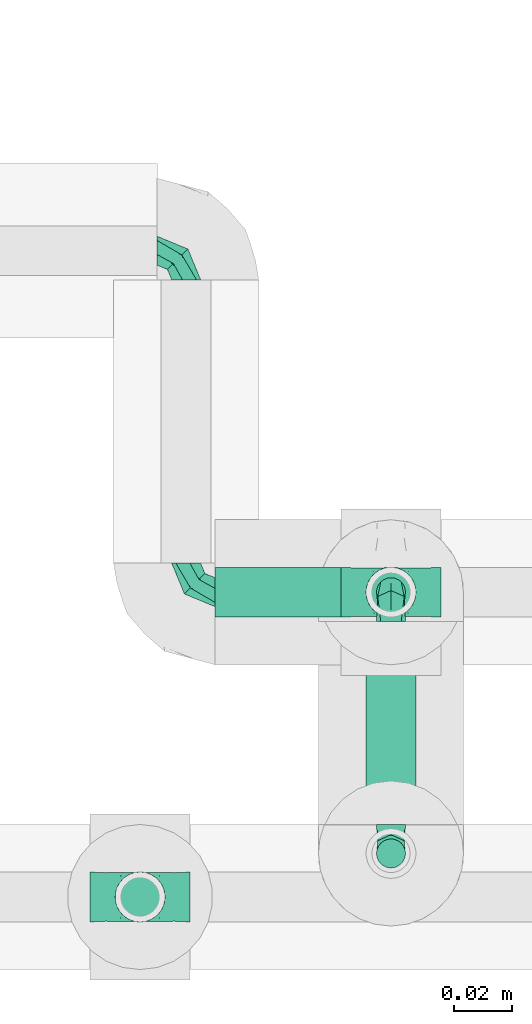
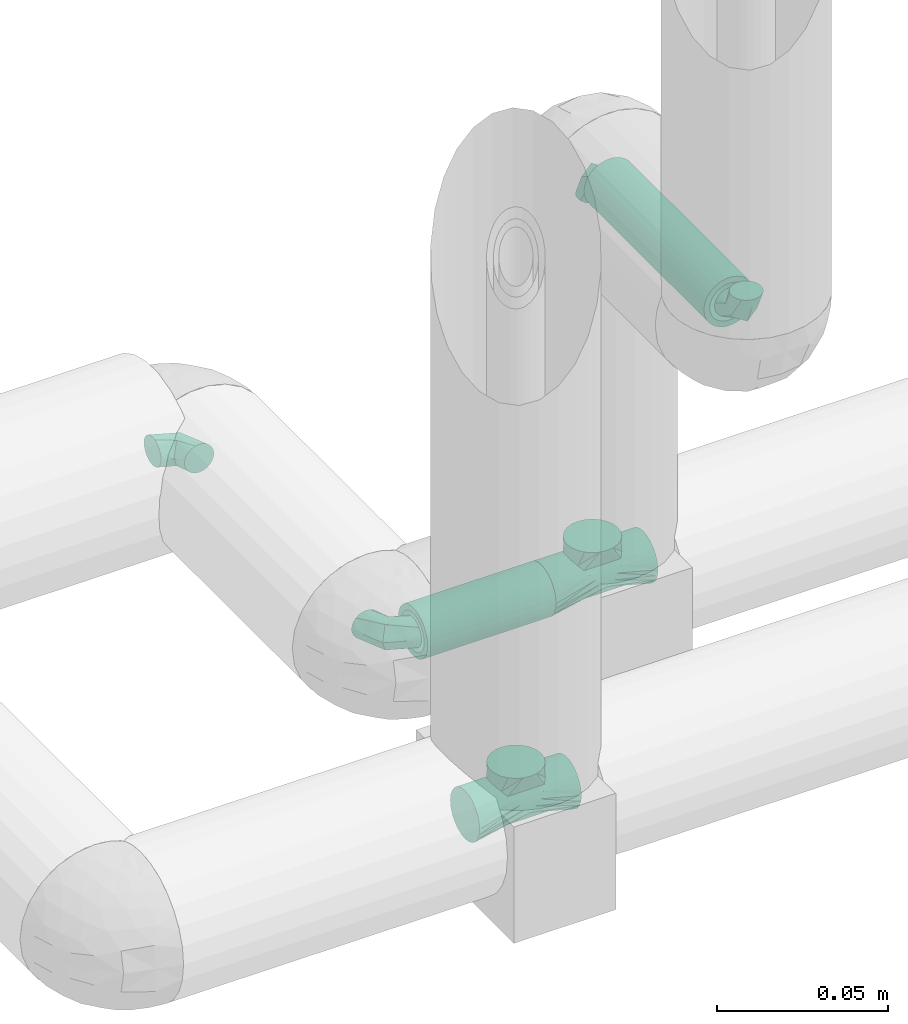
# One storey, part 106 of 156: 6 flow fittings, 2 flow segments.
"""IFC2X3 building model written with IfcOpenShell, lengths in millimetres."""

import ifcopenshell
import ifcopenshell.guid

model = None  # the IFC model being written
_history = None  # IfcOwnerHistory: only IFC2X3 demands one
_inside = {}  # id of a spatial element -> (the spatial element, [elements in it])
_under = {}  # id of a project, library or spatial element -> (it, [spatial elements below it])
_declared = {}  # id of a project -> (the project, [libraries it declares])
_typed = {}  # id of a type object -> (the type object, [elements of that type])
_made_of = {}  # id of a material, layer set ... -> (it, [elements and type objects made of it])


def new_model(schema):
    """Start an empty IFC model of exactly this schema.

    Asked for "IFC4X3", IfcOpenShell would pick the latest addendum, in which some entities
    have other attributes; the version numbers below select the first issue.
    IFC2X3 requires an IfcOwnerHistory on every rooted entity: one is made here for all.
    """
    global model, _history
    if schema == "IFC4X3":
        model = ifcopenshell.file(schema_version=(4, 3, 0, 0))
    else:
        model = ifcopenshell.file(schema=schema)
    _inside.clear()
    _under.clear()
    _declared.clear()
    _typed.clear()
    _made_of.clear()
    _history = None
    if model.schema == "IFC2X3":
        org = make("IfcOrganization", Name="unknown")
        user = make(
            "IfcPersonAndOrganization",
            ThePerson=make("IfcPerson", FamilyName="unknown"),
            TheOrganization=org,
        )
        app = make(
            "IfcApplication",
            ApplicationDeveloper=org,
            Version="unknown",
            ApplicationFullName="unknown",
            ApplicationIdentifier="unknown",
        )
        _history = make(
            "IfcOwnerHistory",
            OwningUser=user,
            OwningApplication=app,
            ChangeAction="ADDED",
            CreationDate=0,
        )
    return model


def make(cls, **values):
    """One entity of the class cls with the attributes given. An attribute that is None is left unset."""
    return model.create_entity(
        cls, **{name: value for name, value in values.items() if value is not None}
    )


def entity(cls, *values):
    """Any entity or typed value of the class cls, its attributes in the order of the schema. None: left unset."""
    e = model.create_entity(cls)
    for i, value in enumerate(values):
        if value is not None:
            e[i] = value
    return e


def rooted(cls, **values):
    """An entity with a GlobalId (a new one), such as an element, a storey or a relation."""
    return make(cls, GlobalId=ifcopenshell.guid.new(), OwnerHistory=_history, **values)


def si_unit(unit_type, name, prefix=None):
    """IfcSIUnit, for example si_unit("LENGTHUNIT", "METRE", prefix="MILLI")."""
    return make("IfcSIUnit", UnitType=unit_type, Prefix=prefix, Name=name)


def converted_unit(unit_type, name, factor, base, dimensions=None, offset=None):
    """IfcConversionBasedUnit, such as the inch: factor (a typed value) times the base unit."""
    return make(
        "IfcConversionBasedUnit"
        if offset is None
        else "IfcConversionBasedUnitWithOffset",
        ConversionOffset=offset,
        Dimensions=None
        if dimensions is None
        else entity("IfcDimensionalExponents", *dimensions),
        UnitType=unit_type,
        Name=name,
        ConversionFactor=make(
            "IfcMeasureWithUnit", ValueComponent=factor, UnitComponent=base
        ),
    )


def derived_unit(unit_type, elements):
    """IfcDerivedUnit: a product of units, each with its exponent."""
    return make(
        "IfcDerivedUnit",
        Elements=[
            make("IfcDerivedUnitElement", Unit=unit, Exponent=power)
            for unit, power in elements
        ],
        UnitType=unit_type,
    )


def assignment(units):
    """IfcUnitAssignment: the units of a project."""
    return None if units is None else make("IfcUnitAssignment", Units=units)


def point(xyz):
    """IfcCartesianPoint."""
    return None if xyz is None else make("IfcCartesianPoint", Coordinates=xyz)


def direction(xyz):
    """IfcDirection."""
    return None if xyz is None else make("IfcDirection", DirectionRatios=xyz)


def frame(location, z_axis=None, x_axis=None):
    """IfcAxis2Placement3D, a coordinate frame: its origin and axes. An axis left out is left unset."""
    return make(
        "IfcAxis2Placement3D",
        Location=point(location),
        Axis=direction(z_axis),
        RefDirection=direction(x_axis),
    )


def frame_2d(location, x_axis=None):
    """IfcAxis2Placement2D, a coordinate frame in the plane: its origin and x axis."""
    return make(
        "IfcAxis2Placement2D", Location=point(location), RefDirection=direction(x_axis)
    )


def origin_with_axes():
    """The frame at (0, 0, 0) with the z axis (0, 0, 1) and the x axis (1, 0, 0) written out."""
    return frame((0.0, 0.0, 0.0), z_axis=(0.0, 0.0, 1.0), x_axis=(1.0, 0.0, 0.0))


def origin_2d_with_axis():
    """The frame at (0, 0) in the plane with the x axis (1, 0) written out."""
    return frame_2d((0.0, 0.0), x_axis=(1.0, 0.0))


def place(relative_to, where):
    """IfcLocalPlacement: puts the frame where relative to a parent placement (None: the world)."""
    return make(
        "IfcLocalPlacement", PlacementRelTo=relative_to, RelativePlacement=where
    )


def context(
    kind, dimensions, precision=None, world=None, true_north=None, identifier=None
):
    """IfcGeometricRepresentationContext, for example the 3D "Model" context."""
    return make(
        "IfcGeometricRepresentationContext",
        ContextIdentifier=identifier,
        ContextType=kind,
        CoordinateSpaceDimension=dimensions,
        Precision=precision,
        WorldCoordinateSystem=world,
        TrueNorth=true_north,
    )


def subcontext(parent, identifier, kind, view, scale=None):
    """IfcGeometricRepresentationSubContext, for example "Body" below "Model"."""
    return make(
        "IfcGeometricRepresentationSubContext",
        ContextIdentifier=identifier,
        ContextType=kind,
        ParentContext=parent,
        TargetScale=scale,
        TargetView=view,
    )


def project(units=None, contexts=None):
    """IfcProject with its units and contexts."""
    return rooted(
        "IfcProject",
        Name="project",
        RepresentationContexts=contexts,
        UnitsInContext=assignment(units),
    )


def spatial(cls, under=None, at=None, **own):
    """A site, building, storey or space (cls), placed at a placement, below another one or the project."""
    s = rooted(cls, ObjectPlacement=at, **own)
    if under is not None:
        _under.setdefault(under.id(), (under, []))[1].append(s)
    return s


def profile(cls, at=None, kind="AREA", **sizes):
    """A parametric profile (cls). Its sizes go by their IFC names, for example OverallWidth=200.0."""
    return make(cls, ProfileType=kind, Position=at, **sizes)


def hollow_circle(**sizes):
    """IfcCircleHollowProfileDef."""
    return profile("IfcCircleHollowProfileDef", **sizes)


def extrude(swept, where, along, depth):
    """IfcExtrudedAreaSolid: the profile swept, set in the frame where, extruded along a direction by depth."""
    return make(
        "IfcExtrudedAreaSolid",
        SweptArea=swept,
        Position=where,
        ExtrudedDirection=direction(along),
        Depth=depth,
    )


def faces_of(points, faces, orient=None, outer=None):
    """IfcFace entities. A face is a list of loops; a loop is a list of indices into points, from 0.

    orient and outer hold one flag for each loop. By default every Orientation is true, the
    first loop of a face is its IfcFaceOuterBound and the others are IfcFaceBound.
    """
    made = []
    for i, loops in enumerate(faces):
        bounds = []
        for j, loop in enumerate(loops):
            is_outer = j == 0 if outer is None else outer[i][j]
            bounds.append(
                make(
                    "IfcFaceOuterBound" if is_outer else "IfcFaceBound",
                    Bound=make("IfcPolyLoop", Polygon=[points[k] for k in loop]),
                    Orientation=True if orient is None else orient[i][j],
                )
            )
        made.append(make("IfcFace", Bounds=bounds))
    return made


def open_shell(faces, orient=None, outer=None):
    """The faces of one IfcOpenShell. surface_model builds it on its shared points."""
    return ("IfcOpenShell", faces, orient, outer)


def surface_model(cls, points, shells):
    """IfcFaceBasedSurfaceModel or IfcShellBasedSurfaceModel (cls): surfaces that need not close."""
    shared = [point(p) for p in points]
    made = [make(c, CfsFaces=faces_of(shared, fs, o, b)) for c, fs, o, b in shells]
    if cls == "IfcFaceBasedSurfaceModel":
        return make(cls, FbsmFaces=made)
    return make(cls, SbsmBoundary=made)


def shape(context_of_items, identifier, shape_type, items):
    """IfcShapeRepresentation: the items that make up one representation, for example the "Body"."""
    return make(
        "IfcShapeRepresentation",
        ContextOfItems=context_of_items,
        RepresentationIdentifier=identifier,
        RepresentationType=shape_type,
        Items=items,
    )


def source(mapping_origin, context_of_items, identifier, shape_type, items):
    """IfcRepresentationMap: a shape defined once, which mapped items show again and again."""
    return make(
        "IfcRepresentationMap",
        MappingOrigin=mapping_origin,
        MappedRepresentation=shape(context_of_items, identifier, shape_type, items),
    )


def transform(
    local_origin,
    x_axis=None,
    y_axis=None,
    z_axis=None,
    scale=None,
    scale2=None,
    scale3=None,
    uniform=True,
):
    """IfcCartesianTransformationOperator3D, or its non-uniform kind. x_axis, y_axis, z_axis: its Axis1, 2, 3."""
    if uniform:
        return make(
            "IfcCartesianTransformationOperator3D",
            Axis1=direction(x_axis),
            Axis2=direction(y_axis),
            LocalOrigin=point(local_origin),
            Scale=scale,
            Axis3=direction(z_axis),
        )
    return make(
        "IfcCartesianTransformationOperator3DnonUniform",
        Axis1=direction(x_axis),
        Axis2=direction(y_axis),
        LocalOrigin=point(local_origin),
        Scale=scale,
        Axis3=direction(z_axis),
        Scale2=scale2,
        Scale3=scale3,
    )


def mapped(mapping_source, mapping_target):
    """IfcMappedItem: shows the shape of a source again, moved by a transform."""
    return make(
        "IfcMappedItem", MappingSource=mapping_source, MappingTarget=mapping_target
    )


def made_of(thing, what):
    """Note that an element or type object is made of a material, layer set ...; save() writes the relation."""
    if what is not None:
        _made_of.setdefault(what.id(), (what, []))[1].append(thing)
    return thing


def type_object(cls, material=None, **own):
    """A type object (cls), such as IfcWallType, which elements share."""
    return made_of(rooted(cls, **own), material)


def element(
    cls,
    number,
    at=None,
    inside=None,
    cuts=None,
    type_object=None,
    material=None,
    context=None,
    identifier="Body",
    shape_type=None,
    held_by="IfcProductDefinitionShape",
    body=None,
    shapes=None,
    **own,
):
    """One element of the class cls, such as IfcWall. Its Tag is "e" and its number.

    at: its placement. inside: the storey or other place that contains it. cuts: it is an
    opening in that element (IfcRelVoidsElement). A single representation is given by context,
    identifier, shape_type and body (its items); several are given by shapes. held_by: the class
    of the entity that holds the representations. save() writes the other relations.
    """
    e = rooted(cls, Tag="e%d" % number, ObjectPlacement=at, **own)
    if body is not None:
        shapes = [shape(context, identifier, shape_type, body)]
    if shapes is not None:
        e.Representation = make(held_by, Representations=shapes)
    if inside is not None:
        _inside.setdefault(inside.id(), (inside, []))[1].append(e)
    if cuts is not None:
        rooted(
            "IfcRelVoidsElement", RelatingBuildingElement=cuts, RelatedOpeningElement=e
        )
    if type_object is not None:
        _typed.setdefault(type_object.id(), (type_object, []))[1].append(e)
    return made_of(e, material)


def aggregate(whole, parts):
    """IfcRelAggregates: a whole, such as a stair, and the parts it consists of."""
    return rooted("IfcRelAggregates", RelatingObject=whole, RelatedObjects=parts)


def save(model, path):
    """Write the relations noted so far, then the file.

    IfcRelAggregates (storeys below a building ...), IfcRelContainedInSpatialStructure (elements
    in a storey), IfcRelDefinesByType, IfcRelAssociatesMaterial and IfcRelDeclares: one each for
    every whole, place, type object, material and project.
    """
    for whole, parts in _under.values():
        aggregate(whole, parts)
    for where, things in _inside.values():
        rooted(
            "IfcRelContainedInSpatialStructure",
            RelatedElements=things,
            RelatingStructure=where,
        )
    for kind, things in _typed.values():
        rooted("IfcRelDefinesByType", RelatedObjects=things, RelatingType=kind)
    for what, things in _made_of.values():
        rooted("IfcRelAssociatesMaterial", RelatedObjects=things, RelatingMaterial=what)
    for by, libraries in _declared.values():
        rooted("IfcRelDeclares", RelatingContext=by, RelatedDefinitions=libraries)
    model.write(path)


model = new_model("IFC2X3")

# Units and contexts
model_context = context("Model", 3, precision=0.01, world=frame((0.0, 4.29681676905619e-09, 0.0)), true_north=direction((4.01073788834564e-13, 1.0)))
plan_context = context("Plan", 3, precision=0.01, world=frame((0.0, 4.29681676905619e-09, 0.0)), true_north=direction((4.01073788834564e-13, 1.0)))
body_context = subcontext(model_context, "Body", "Model", "MODEL_VIEW")
ifc_project = project(units=[converted_unit("PLANEANGLEUNIT", "DEGREE", entity("IfcPositiveLengthMeasure", 0.0174532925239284), si_unit("PLANEANGLEUNIT", "RADIAN"), dimensions=[0, 0, 0, 0, 0, 0, 0]), si_unit("AREAUNIT", "SQUARE_METRE"), si_unit("LENGTHUNIT", "METRE", prefix="MILLI"), si_unit("MASSUNIT", "GRAM", prefix="KILO"), si_unit("POWERUNIT", "WATT"), si_unit("PRESSUREUNIT", "PASCAL", prefix="KILO"), si_unit("FORCEUNIT", "NEWTON", prefix="KILO"), si_unit("ELECTRICVOLTAGEUNIT", "VOLT"), si_unit("ELECTRICCURRENTUNIT", "AMPERE"), si_unit("THERMODYNAMICTEMPERATUREUNIT", "DEGREE_CELSIUS"), si_unit("TIMEUNIT", "SECOND"), si_unit("VOLUMEUNIT", "CUBIC_METRE"), derived_unit("LINEARVELOCITYUNIT", [(si_unit("LENGTHUNIT", "METRE"), 1), (si_unit("TIMEUNIT", "SECOND"), -1)]), derived_unit("VOLUMETRICFLOWRATEUNIT", [(si_unit("VOLUMEUNIT", "CUBIC_METRE"), 1), (si_unit("TIMEUNIT", "SECOND"), -1)]), derived_unit("THERMALTRANSMITTANCEUNIT", [(si_unit("POWERUNIT", "WATT"), 1), (si_unit("THERMODYNAMICTEMPERATUREUNIT", "KELVIN"), -1), (si_unit("AREAUNIT", "SQUARE_METRE"), -1)]), derived_unit("SOUNDPRESSUREUNIT", [(si_unit("PRESSUREUNIT", "PASCAL"), 1)])], contexts=[model_context, plan_context])

# Site, building, storey
site_placement = place(None, frame((0.0, -4.29681676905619e-09, 0.0), z_axis=(0.0, 0.0, 1.0), x_axis=(1.0, 0.0, 0.0)))
site = spatial("IfcSite", under=ifc_project, at=site_placement, CompositionType="ELEMENT")
building_placement = place(site_placement, frame((0.0, 4.29681676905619e-09, 0.0), z_axis=(0.0, 0.0, 1.0), x_axis=(1.0, 0.0, 0.0)))
building = spatial("IfcBuilding", under=site, at=building_placement, Name="mc-building", CompositionType="ELEMENT")
storey_placement = place(building_placement, frame((0.0, 0.0, 205200.0), z_axis=(0.0, 0.0, 1.0), x_axis=(1.0, 0.0, 0.0)))
storey = spatial("IfcBuildingStorey", under=building, at=storey_placement, Name="Nivå D + 1,2 m", CompositionType="ELEMENT", Elevation=205200.0)

# Flow fittings
pipe_fitting_type_1 = type_object("IfcPipeFittingType", Name="magi_pipe_elbow_short_001", PredefinedType="BEND")
shared_shape_1 = source(origin_with_axes(), body_context, "Body", "SurfaceModel", [
    surface_model("IfcShellBasedSurfaceModel", [(-10.0, 0.0, -5.0), (-10.0, -3.53553, -3.53553), (-10.0, 1.2941, -4.82963), (-10.0, 2.5, -4.33013), (-10.0, 3.53553, -3.53553), (-10.0, 4.82963, -1.2941), (-10.0, 4.33013, -2.5), (-10.0, -5.0, 0.0), (-10.0, 4.33013, 2.5), (-10.0, -2.5, -4.33013), (-10.0, -1.2941, -4.82963), (-10.0, -4.82963, -1.2941), (-10.0, -4.33013, -2.5), (-10.0, 5.0, 0.0), (-10.0, 4.82963, 1.2941), (-10.0, -3.53553, 3.53553), (-10.0, 1.2941, 4.82963), (-10.0, 2.5, 4.33013), (-10.0, 3.53553, 3.53553), (-10.0, -1.2941, 4.82963), (-10.0, -4.82963, 1.2941), (-10.0, -4.33013, 2.5), (-10.0, -2.5, 4.33013), (-10.0, 0.0, 5.0), (-1.2941, 10.0, -4.82963), (3.53553, 10.0, -3.53553), (0.0, 10.0, -5.0), (-3.53553, 10.0, -3.53553), (-2.5, 10.0, -4.33013), (-4.33013, 10.0, -2.5), (-4.82963, 10.0, -1.2941), (5.0, 10.0, 0.0), (-4.33013, 10.0, 2.5), (1.2941, 10.0, -4.82963), (2.5, 10.0, -4.33013), (4.33013, 10.0, -2.5), (4.82963, 10.0, -1.2941), (-5.0, 10.0, 0.0), (-4.82963, 10.0, 1.2941), (3.53553, 10.0, 3.53553), (-2.5, 10.0, 4.33013), (-1.2941, 10.0, 4.82963), (-3.53553, 10.0, 3.53553), (4.33013, 10.0, 2.5), (4.82963, 10.0, 1.2941), (1.2941, 10.0, 4.82963), (2.5, 10.0, 4.33013), (0.0, 10.0, 5.0), (-5.49842, -3.13538, 0.0), (3.13538, 5.49842, 0.0), (0.6066, -0.6066, 0.0), (-1.45852, 1.45852, 4.54706), (-4.39636, 4.39636, 4.54899), (-6.46447, 6.46447, 0.0), (-4.39636, 4.39636, -4.54899), (-1.45852, 1.45852, -4.54706)], [open_shell([[[0, 1, 2]], [[3, 2, 4]], [[5, 6, 4]], [[4, 2, 7]], [[4, 7, 8]], [[9, 1, 10]], [[1, 0, 10]], [[11, 7, 12]], [[1, 12, 7]], [[1, 7, 2]], [[13, 5, 4]], [[8, 14, 13]], [[15, 8, 7]], [[8, 16, 17]], [[18, 8, 17]], [[16, 8, 19]], [[20, 21, 7]], [[7, 21, 15]], [[22, 19, 15]], [[19, 8, 15]], [[16, 19, 23]], [[8, 13, 4]], [[24, 25, 26]], [[27, 24, 28]], [[27, 29, 30]], [[31, 24, 27]], [[32, 31, 27]], [[33, 25, 34]], [[33, 26, 25]], [[35, 31, 36]], [[31, 35, 25]], [[24, 31, 25]], [[27, 30, 37]], [[37, 38, 32]], [[31, 32, 39]], [[40, 41, 32]], [[40, 32, 42]], [[39, 32, 41]], [[31, 43, 44]], [[39, 43, 31]], [[39, 45, 46]], [[39, 41, 45]], [[47, 45, 41]], [[27, 37, 32]], [[20, 7, 48]], [[21, 20, 48]], [[15, 21, 48]], [[43, 49, 44]], [[50, 49, 51]], [[22, 15, 51]], [[16, 52, 17]], [[16, 23, 51]], [[19, 51, 23]], [[22, 51, 19]], [[48, 51, 15]], [[41, 52, 51]], [[18, 52, 8]], [[52, 18, 17]], [[14, 8, 53]], [[53, 13, 14]], [[8, 52, 53]], [[16, 51, 52]], [[51, 48, 50]], [[46, 45, 51]], [[51, 39, 46]], [[51, 47, 41]], [[31, 44, 49]], [[51, 49, 39]], [[39, 49, 43]], [[32, 38, 53]], [[37, 53, 38]], [[40, 42, 52]], [[32, 52, 42]], [[32, 53, 52]], [[40, 52, 41]], [[47, 51, 45]], [[2, 3, 54]], [[2, 55, 0]], [[53, 6, 5]], [[24, 54, 28]], [[4, 6, 54]], [[34, 55, 33]], [[54, 6, 53]], [[4, 54, 3]], [[48, 7, 11]], [[12, 1, 48]], [[10, 55, 9]], [[48, 1, 55]], [[1, 9, 55]], [[10, 0, 55]], [[5, 13, 53]], [[53, 37, 30]], [[2, 54, 55]], [[53, 30, 29]], [[54, 29, 27]], [[36, 31, 49]], [[54, 24, 55]], [[12, 48, 11]], [[50, 48, 55]], [[54, 27, 28]], [[26, 55, 24]], [[55, 34, 25]], [[55, 25, 49]], [[35, 36, 49]], [[55, 49, 50]], [[49, 25, 35]], [[33, 55, 26]], [[54, 53, 29]]])]),
])
for number, where, z_axis, x_axis, name in (
    (1, (346228.06078, 458918.61963, 4348.32044000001), (1.0, 0.0, 0.0), (0.0, 0.0, 1.0), "magi_pipe_elbow_short_001"),
    (2, (346228.06078, 458828.61963, 4348.32044000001), (-1.0, 0.0, 0.0), (0.0, -1.0, 0.0), "magi_pipe_elbow_short_001"),
):
    element("IfcFlowFitting", number, at=place(storey_placement, frame(where, z_axis=z_axis, x_axis=x_axis)), inside=storey, type_object=pipe_fitting_type_1, Name=name, context=body_context, shape_type="MappedRepresentation", body=[
        mapped(shared_shape_1, transform((0.0, 0.0, 0.0), scale=1.0)),
    ])
pipe_fitting_type_2 = type_object("IfcPipeFittingType", Name="magi_pipe_fe_tee_centric_90_001", PredefinedType="JUNCTION")
shared_shape_2 = source(origin_with_axes(), body_context, "Body", "SurfaceModel", [
    surface_model("IfcShellBasedSurfaceModel", [(-17.2, 0.0, -8.6), (-17.2, -8.6, 0.0), (-17.2, 2.22584, -8.30696), (-17.2, 4.3, -7.44782), (-17.2, 7.44782, -4.3), (-17.2, 8.30696, 2.22584), (-17.2, 6.08112, -6.08112), (-17.2, 8.6, 0.0), (-17.2, -6.08112, -6.08112), (-17.2, -7.44782, -4.3), (-17.2, -4.3, -7.44782), (-17.2, -2.22584, -8.30696), (-17.2, -8.30696, -2.22584), (-17.2, 8.30696, -2.22584), (-17.2, 4.3, 7.44782), (-17.2, 7.44782, 4.3), (-17.2, -4.3, 7.44782), (-17.2, 6.08112, 6.08112), (-17.2, 0.0, 8.6), (-17.2, 2.22584, 8.30696), (-17.2, -7.44782, 4.3), (-17.2, -6.08112, 6.08112), (-17.2, -8.30696, 2.22584), (-17.2, -2.22584, 8.30696), (17.2, 2.22584, -8.30696), (17.2, -4.3, -7.44782), (17.2, 0.0, -8.6), (17.2, 7.44782, -4.3), (17.2, 4.3, -7.44782), (17.2, -8.30696, 2.22584), (17.2, -8.6, 0.0), (17.2, 6.08112, -6.08112), (17.2, -7.44782, -4.3), (17.2, -6.08112, -6.08112), (17.2, -2.22584, -8.30696), (17.2, -8.30696, -2.22584), (17.2, 8.30696, -2.22584), (17.2, 8.6, 0.0), (17.2, 2.22584, 8.30696), (17.2, 8.30696, 2.22584), (17.2, 7.44782, 4.3), (17.2, 4.3, 7.44782), (17.2, 6.08112, 6.08112), (17.2, 0.0, 8.6), (17.2, -7.44782, 4.3), (17.2, -4.3, 7.44782), (17.2, -6.08112, 6.08112), (17.2, -2.22584, 8.30696), (8.6, -8.6, 0.0), (8.28805, -8.28805, 2.29527), (7.44335, -7.44335, 4.30773), (6.24056, -6.24056, 5.91738), (4.82014, -4.82014, 7.12224), (-8.6, -8.6, 0.0), (-8.28805, -8.28805, 2.29527), (-7.44335, -7.44335, 4.30773), (-6.24056, -6.24056, 5.91738), (-4.82014, -4.82014, 7.12224), (3.27153, -3.27153, 7.95343), (1.65141, -1.65141, 8.43995), (0.0, 0.0, 8.6), (-3.27153, -3.27153, 7.95343), (-1.65141, -1.65141, 8.43995), (0.0, 0.0, -8.6), (3.27153, -3.27153, -7.95343), (1.65141, -1.65141, -8.43995), (4.82014, -4.82014, -7.12224), (-1.65141, -1.65141, -8.43995), (-3.27153, -3.27153, -7.95343), (-4.82014, -4.82014, -7.12224), (6.24056, -6.24056, -5.91738), (7.44335, -7.44335, -4.30773), (8.28805, -8.28805, -2.29527), (-6.24056, -6.24056, -5.91738), (-7.44335, -7.44335, -4.30773), (-8.28805, -8.28805, -2.29527), (0.0, -12.9, -8.6), (2.22584, -12.9, -8.30696), (4.3, -12.9, -7.44782), (6.08112, -12.9, -6.08112), (7.44782, -12.9, -4.3), (8.30696, -12.9, -2.22584), (-6.08112, -12.9, -6.08112), (-8.30696, -12.9, 2.22584), (-2.22584, -12.9, -8.30696), (-4.3, -12.9, -7.44782), (-8.30696, -12.9, -2.22584), (-7.44782, -12.9, -4.3), (-8.6, -12.9, 0.0), (8.30696, -12.9, 2.22584), (2.22584, -12.9, 8.30696), (7.44782, -12.9, 4.3), (4.3, -12.9, 7.44782), (6.08112, -12.9, 6.08112), (0.0, -12.9, 8.6), (-6.08112, -12.9, 6.08112), (-7.44782, -12.9, 4.3), (-4.3, -12.9, 7.44782), (-2.22584, -12.9, 8.30696), (8.6, -12.9, 0.0)], [open_shell([[[0, 1, 2]], [[3, 2, 4]], [[2, 1, 5]], [[6, 3, 4]], [[2, 7, 4]], [[8, 9, 10]], [[11, 10, 9]], [[12, 1, 9]], [[0, 11, 9]], [[9, 1, 0]], [[7, 13, 4]], [[14, 5, 1]], [[15, 5, 14]], [[1, 16, 14]], [[17, 15, 14]], [[14, 18, 19]], [[1, 20, 21]], [[20, 1, 22]], [[16, 23, 14]], [[21, 16, 1]], [[18, 14, 23]], [[7, 2, 5]], [[24, 25, 26]], [[27, 24, 28]], [[29, 30, 24]], [[27, 28, 31]], [[27, 29, 24]], [[25, 32, 33]], [[25, 34, 26]], [[32, 30, 35]], [[32, 25, 24]], [[30, 32, 24]], [[27, 36, 37]], [[38, 37, 39]], [[38, 39, 40]], [[41, 38, 40]], [[41, 40, 42]], [[37, 38, 43]], [[44, 45, 46]], [[44, 29, 37]], [[45, 43, 47]], [[45, 44, 37]], [[43, 45, 37]], [[37, 29, 27]], [[30, 29, 48]], [[29, 49, 48]], [[49, 29, 44]], [[49, 44, 50]], [[46, 45, 51]], [[51, 50, 46]], [[52, 51, 45]], [[46, 50, 44]], [[53, 54, 22]], [[53, 22, 1]], [[22, 54, 20]], [[54, 55, 20]], [[56, 57, 16]], [[56, 21, 55]], [[21, 56, 16]], [[55, 21, 20]], [[16, 57, 23]], [[52, 45, 47]], [[43, 58, 52]], [[58, 38, 59]], [[38, 58, 43]], [[59, 38, 41]], [[43, 52, 47]], [[41, 42, 60]], [[60, 40, 39]], [[40, 60, 42]], [[41, 60, 59]], [[60, 39, 37]], [[19, 61, 62]], [[18, 23, 57]], [[19, 18, 61]], [[18, 57, 61]], [[62, 60, 14]], [[60, 5, 15]], [[15, 17, 60]], [[14, 19, 62]], [[60, 17, 14]], [[5, 60, 7]], [[60, 37, 7]], [[36, 63, 37]], [[31, 63, 27]], [[63, 36, 27]], [[63, 31, 28]], [[24, 26, 64]], [[24, 64, 65]], [[66, 64, 26]], [[66, 26, 34]], [[24, 65, 28]], [[63, 28, 65]], [[63, 3, 6]], [[13, 63, 4]], [[6, 4, 63]], [[63, 13, 7]], [[67, 2, 3]], [[2, 68, 0]], [[11, 0, 69]], [[67, 68, 2]], [[67, 3, 63]], [[7, 37, 63]], [[25, 33, 70]], [[70, 66, 25]], [[71, 70, 33]], [[33, 32, 71]], [[32, 35, 72]], [[35, 48, 72]], [[48, 35, 30]], [[32, 72, 71]], [[69, 10, 11]], [[10, 73, 8]], [[73, 10, 69]], [[8, 73, 74]], [[69, 0, 68]], [[75, 53, 12]], [[74, 75, 9]], [[75, 12, 9]], [[12, 53, 1]], [[74, 9, 8]], [[66, 34, 25]], [[76, 77, 78]], [[76, 78, 79]], [[79, 80, 81]], [[79, 81, 76]], [[82, 76, 83]], [[84, 82, 85]], [[84, 76, 82]], [[82, 86, 87]], [[86, 82, 88]], [[82, 83, 88]], [[83, 76, 81]], [[81, 89, 90]], [[90, 89, 91]], [[92, 90, 91]], [[92, 91, 93]], [[81, 90, 94]], [[83, 95, 96]], [[81, 95, 83]], [[97, 94, 98]], [[95, 81, 97]], [[97, 81, 94]], [[89, 81, 99]], [[83, 53, 88]], [[96, 54, 83]], [[55, 95, 97]], [[97, 98, 55]], [[96, 95, 54]], [[94, 56, 98]], [[54, 53, 83]], [[55, 54, 95]], [[51, 57, 56]], [[58, 62, 61]], [[61, 57, 52]], [[55, 98, 56]], [[94, 51, 56]], [[92, 50, 90]], [[93, 50, 92]], [[49, 91, 89]], [[99, 48, 89]], [[93, 91, 49]], [[49, 89, 48]], [[60, 62, 59]], [[59, 62, 58]], [[49, 50, 93]], [[52, 57, 51]], [[50, 51, 90]], [[61, 52, 58]], [[51, 94, 90]], [[81, 48, 99]], [[80, 72, 81]], [[71, 79, 78]], [[78, 77, 71]], [[80, 79, 72]], [[76, 70, 77]], [[72, 48, 81]], [[71, 72, 79]], [[73, 66, 70]], [[68, 65, 64]], [[64, 66, 69]], [[71, 77, 70]], [[76, 73, 70]], [[85, 74, 84]], [[82, 74, 85]], [[75, 87, 86]], [[88, 53, 86]], [[82, 87, 75]], [[75, 86, 53]], [[63, 65, 67]], [[67, 65, 68]], [[75, 74, 82]], [[69, 66, 73]], [[74, 73, 84]], [[64, 69, 68]], [[73, 76, 84]]])]),
])
for number, where, z_axis, x_axis, name in (
    (3, (346228.06078, 458918.61963, 4203.32044000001), (0.0, -1.0, 0.0), (-1.0, 0.0, 0.0), "magi_pipe_fe_tee_centric_90_001"),
    (4, (346141.60779, 458813.61963, 4216.68835000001), (0.0, -1.0, 0.0), (-1.0, 0.0, 0.0), "magi_pipe_fe_tee_centric_90_001"),
):
    element("IfcFlowFitting", number, at=place(storey_placement, frame(where, z_axis=z_axis, x_axis=x_axis)), inside=storey, type_object=pipe_fitting_type_2, Name=name, context=body_context, shape_type="MappedRepresentation", body=[
        mapped(shared_shape_2, transform((0.0, 0.0, 0.0), scale=1.0)),
    ])
shared_shape_3 = source(origin_with_axes(), body_context, "Body", "SurfaceModel", [
    surface_model("IfcShellBasedSurfaceModel", [(-10.0, 0.0, -5.0), (-10.0, -3.53553, -3.53553), (-10.0, 1.2941, -4.82963), (-10.0, 2.5, -4.33013), (-10.0, 3.53553, -3.53553), (-10.0, 4.82963, -1.2941), (-10.0, 4.33013, -2.5), (-10.0, -5.0, 0.0), (-10.0, 4.33013, 2.5), (-10.0, -2.5, -4.33013), (-10.0, -1.2941, -4.82963), (-10.0, -4.82963, -1.2941), (-10.0, -4.33013, -2.5), (-10.0, 5.0, 0.0), (-10.0, 4.82963, 1.2941), (-10.0, -3.53553, 3.53553), (-10.0, 1.2941, 4.82963), (-10.0, 2.5, 4.33013), (-10.0, 3.53553, 3.53553), (-10.0, -1.2941, 4.82963), (-10.0, -4.82963, 1.2941), (-10.0, -4.33013, 2.5), (-10.0, -2.5, 4.33013), (-10.0, 0.0, 5.0), (-1.2941, 10.0, -4.82963), (3.53553, 10.0, -3.53553), (0.0, 10.0, -5.0), (-3.53553, 10.0, -3.53553), (-2.5, 10.0, -4.33013), (-4.33013, 10.0, -2.5), (-4.82963, 10.0, -1.2941), (1.2941, 10.0, -4.82963), (2.5, 10.0, -4.33013), (4.33013, 10.0, -2.5), (5.0, 10.0, 0.0), (4.82963, 10.0, -1.2941), (-5.0, 10.0, 0.0), (-4.82963, 10.0, 1.2941), (-4.33013, 10.0, 2.5), (-2.5, 10.0, 4.33013), (-3.53553, 10.0, 3.53553), (3.53553, 10.0, 3.53553), (4.33013, 10.0, 2.5), (1.2941, 10.0, 4.82963), (2.5, 10.0, 4.33013), (-1.2941, 10.0, 4.82963), (0.0, 10.0, 5.0), (-5.49842, -3.13538, 0.0), (3.13538, 5.49842, 0.0), (4.82963, 10.0, 1.2941), (0.6066, -0.6066, 0.0), (-1.45852, 1.45852, 4.54706), (-4.39636, 4.39636, 4.54899), (-6.46447, 6.46447, 0.0), (-4.39636, 4.39636, -4.54899), (-1.45852, 1.45852, -4.54706)], [open_shell([[[0, 1, 2]], [[3, 2, 4]], [[5, 6, 4]], [[4, 2, 7]], [[4, 7, 8]], [[9, 1, 10]], [[1, 0, 10]], [[11, 7, 12]], [[1, 12, 7]], [[1, 7, 2]], [[13, 5, 4]], [[8, 14, 13]], [[15, 8, 7]], [[8, 16, 17]], [[18, 8, 17]], [[16, 8, 19]], [[20, 21, 7]], [[7, 21, 15]], [[22, 19, 15]], [[19, 8, 15]], [[16, 19, 23]], [[8, 13, 4]], [[24, 25, 26]], [[27, 24, 28]], [[27, 29, 30]], [[31, 25, 32]], [[31, 26, 25]], [[33, 34, 35]], [[36, 37, 38]], [[39, 38, 40]], [[41, 42, 34]], [[41, 43, 44]], [[41, 45, 43]], [[46, 43, 45]], [[20, 7, 47]], [[21, 20, 47]], [[15, 21, 47]], [[42, 48, 49]], [[50, 48, 51]], [[22, 15, 51]], [[16, 52, 17]], [[16, 23, 51]], [[19, 51, 23]], [[22, 51, 19]], [[47, 51, 15]], [[45, 52, 51]], [[18, 52, 8]], [[52, 18, 17]], [[14, 8, 53]], [[53, 13, 14]], [[8, 52, 53]], [[16, 51, 52]], [[51, 47, 50]], [[44, 43, 51]], [[51, 41, 44]], [[51, 46, 45]], [[34, 49, 48]], [[51, 48, 41]], [[41, 48, 42]], [[38, 37, 53]], [[36, 53, 37]], [[39, 40, 52]], [[38, 52, 40]], [[38, 53, 52]], [[39, 52, 45]], [[46, 51, 43]], [[2, 3, 54]], [[2, 55, 0]], [[53, 6, 5]], [[24, 54, 28]], [[4, 6, 54]], [[32, 55, 31]], [[54, 6, 53]], [[4, 54, 3]], [[47, 7, 11]], [[12, 1, 47]], [[10, 55, 9]], [[47, 1, 55]], [[1, 9, 55]], [[10, 0, 55]], [[5, 13, 53]], [[53, 36, 30]], [[2, 54, 55]], [[53, 30, 29]], [[54, 29, 27]], [[35, 34, 48]], [[54, 24, 55]], [[12, 47, 11]], [[50, 47, 55]], [[54, 27, 28]], [[26, 55, 24]], [[55, 32, 25]], [[55, 25, 48]], [[33, 35, 48]], [[55, 48, 50]], [[48, 25, 33]], [[31, 55, 26]], [[54, 53, 29]], [[25, 24, 27]], [[41, 25, 27]], [[41, 34, 33]], [[33, 25, 41]], [[36, 27, 30]], [[27, 38, 41]], [[38, 39, 41]], [[45, 41, 39]], [[42, 49, 34]], [[36, 38, 27]]])]),
])
for number, where, z_axis, x_axis, name in (
    (5, (346157.5, 459036.28638, 4203.32044000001), (0.0, 0.0, 1.0), (0.0, 1.0, 0.0), "magi_pipe_elbow_short_001"),
    (6, (346157.5, 458918.61963, 4203.32044000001), (0.0, 0.0, 1.0), (0.0, -1.0, 0.0), "magi_pipe_elbow_short_001"),
):
    element("IfcFlowFitting", number, at=place(storey_placement, frame(where, z_axis=z_axis, x_axis=x_axis)), inside=storey, type_object=pipe_fitting_type_1, Name=name, context=body_context, shape_type="MappedRepresentation", body=[
        mapped(shared_shape_3, transform((0.0, 0.0, 0.0), scale=1.0)),
    ])

# Flow segments
pipe_segment_type = type_object("IfcPipeSegmentType", Name="Stålrør normaltykke", PredefinedType="RIGIDSEGMENT")
shared_shape_4 = source(origin_with_axes(), body_context, "Body", "SweptSolid", [
    extrude(hollow_circle(Radius=8.6, WallThickness=2.0, at=origin_2d_with_axis()), frame((0.0, 0.0, 0.0), z_axis=(1.0, 0.0, 0.0), x_axis=(0.0, 1.0, 0.0)), (0.0, 0.0, 1.0), 70.0),
])
flow_segment_1_placement = place(storey_placement, frame((346228.06078, 458908.61963, 4348.32044000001), z_axis=(0.0, 0.0, 1.0), x_axis=(0.0, -1.0, 0.0)))
element("IfcFlowSegment", 7, at=flow_segment_1_placement, inside=storey, type_object=pipe_segment_type, Name="Stålrør normaltykke", context=body_context, shape_type="MappedRepresentation", body=[
    mapped(shared_shape_4, transform((0.0, 0.0, 0.0), scale=1.0)),
])
shared_shape_5 = source(origin_with_axes(), body_context, "Body", "SweptSolid", [
    extrude(hollow_circle(Radius=8.6, WallThickness=2.0, at=origin_2d_with_axis()), frame((0.0, 0.0, 0.0), z_axis=(1.0, 0.0, 0.0), x_axis=(0.0, 1.0, 0.0)), (0.0, 0.0, 1.0), 43.4),
])
flow_segment_2_placement = place(storey_placement, frame((346167.5, 458918.61963, 4203.32044000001), z_axis=(0.0, 0.0, 1.0), x_axis=(1.0, 0.0, 0.0)))
element("IfcFlowSegment", 8, at=flow_segment_2_placement, inside=storey, type_object=pipe_segment_type, Name="Stålrør normaltykke", context=body_context, shape_type="MappedRepresentation", body=[
    mapped(shared_shape_5, transform((0.0, 0.0, 0.0), scale=1.0)),
])

save(model, "model.ifc")
